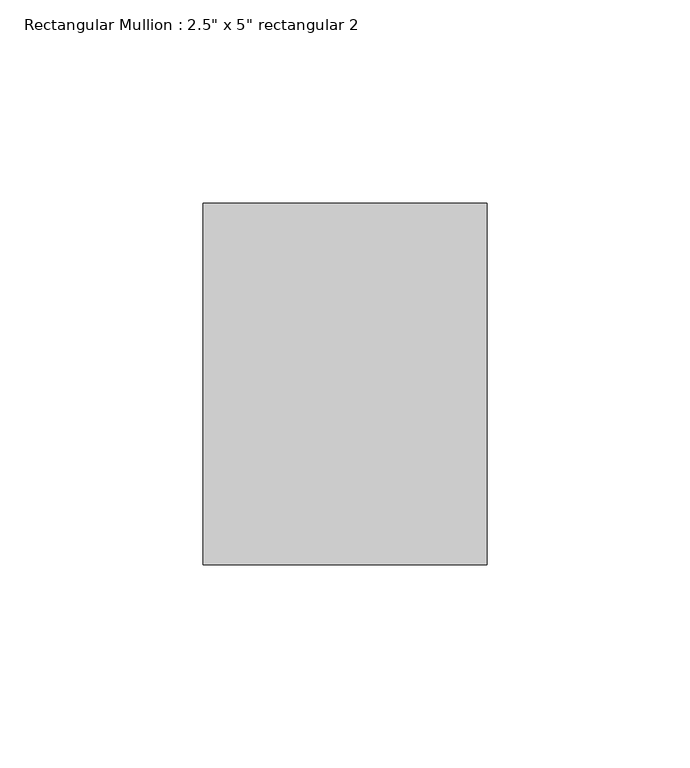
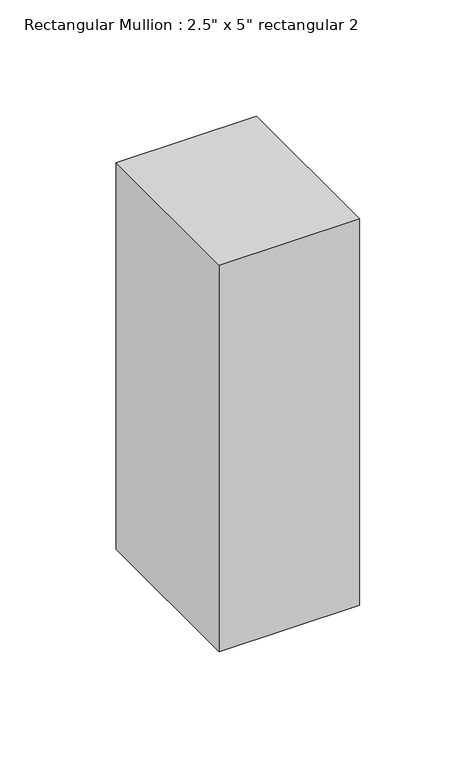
"""IFC4 building model written with IfcOpenShell, lengths in millimetres: member geometry."""

from ifc_helpers import new_model, si_unit, frame, origin, place, context, project, spatial, polyline, outline, extrude, source, transform, mapped, element, save


def member_f87c016e(model_context):
    return source(origin(), model_context, "Body", "SweptSolid", [
        extrude(outline(polyline([(0.0, 44.45), (0.0, -44.45), (-69.85, -44.45), (-69.85, 44.45), (0.0, 44.45)])), frame((0.0, 0.0, -203.2), z_axis=(0.0, 0.0, 1.0), x_axis=(1.0, 0.0, 0.0)), (0.0, 0.0, 1.0), 203.2),
    ])


if __name__ == "__main__":
    model = new_model("IFC4")
    model_context = context("Model", 3, world=origin())
    ifc_project = project(units=[si_unit("LENGTHUNIT", "METRE", prefix="MILLI")], contexts=[model_context])
    site = spatial("IfcSite", under=ifc_project)
    building = spatial("IfcBuilding", under=site)
    placement = place(None, origin())
    member_shape = member_f87c016e(model_context)
    element("IfcMember", 1, ObjectType="Rectangular Mullion : 2.5\" x 5\" rectangular 2", at=placement, inside=building, context=model_context, shape_type="MappedRepresentation", body=[
        mapped(member_shape, transform((0.0, 0.0, 0.0), x_axis=(1.0, 0.0, 0.0), y_axis=(0.0, 1.0, 0.0), z_axis=(0.0, 0.0, 1.0))),
    ])
    save(model, "model.ifc")
